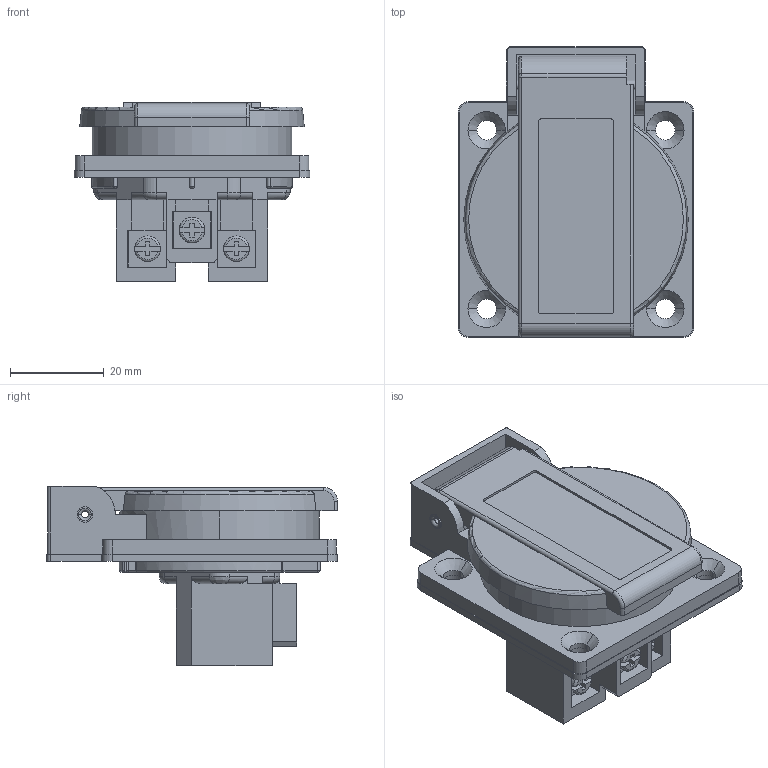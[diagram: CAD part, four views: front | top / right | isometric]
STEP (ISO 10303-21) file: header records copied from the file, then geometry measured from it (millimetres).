
FILE_DESCRIPTION((''),'2;1');
FILE_NAME('1116069_PRT','2018-03-12T',('gisse'),('MENNEKES'),'PRO/ENGINEER BY PARAMETRIC TECHNOLOGY CORPORATION, 2015440','PRO/ENGINEER BY PARAMETRIC TECHNOLOGY CORPORATION, 2015440','');
FILE_SCHEMA(('AUTOMOTIVE_DESIGN { 1 0 10303 214 1 1 1 1 }'));
Length unit declared in the file: millimetre
Products named in the file (1): 1116069_PRT
Bounding box: 50.4 x 62.2 x 38.3 mm (x, y, z)
Volume: 47479 mm3; surface area: 16681.6 mm2
Topology: 4 solids, 4 shells, 395 faces, 1035 edges, 668 vertices
Faces by surface type: plane 222, cylinder 119, torus 29, bspline 15, cone 10
Entity records: 17434 total; most frequent: CARTESIAN_POINT 2563, DIRECTION 2073, ORIENTED_EDGE 2070, PRESENTATION_STYLE_ASSIGNMENT 1177, STYLED_ITEM 1039, CURVE_STYLE 1035, EDGE_CURVE 1035, AXIS2_PLACEMENT_3D 697
